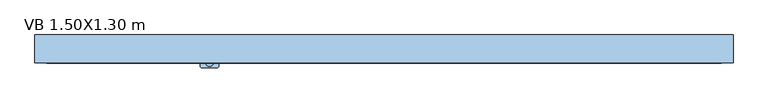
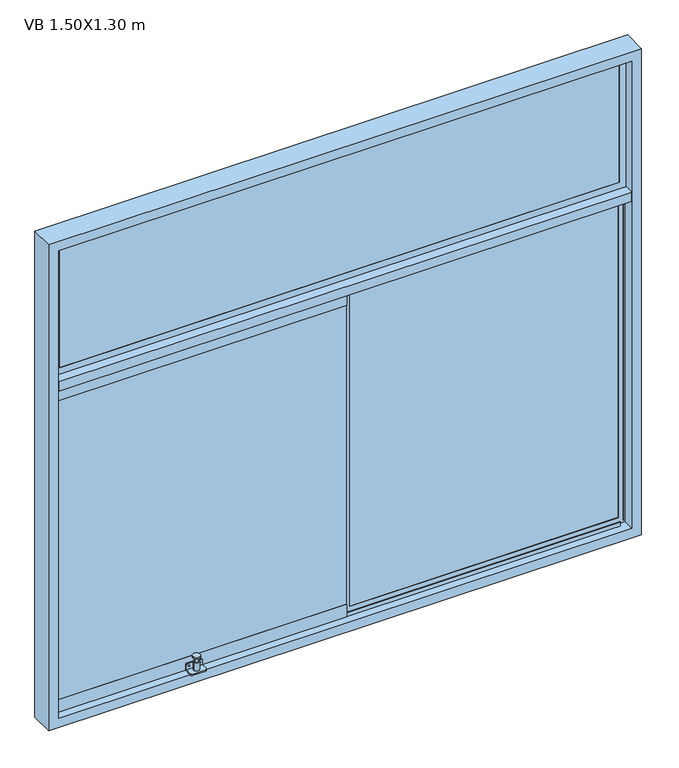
"""IFC4 building model written with IfcOpenShell, lengths in millimetres: window geometry, Ventana baja corrediza 2 cuerpos : VB 1.50X1.30 m."""

from ifc_helpers import new_model, si_unit, point, frame, frame_2d, origin, place, context, project, spatial, polyline, circle_curve, trimmed, segment, composite_curve, outline, extrude, faceted_brep, source, transform, mapped, element, save


def vb_1_50x1_30_m_f73e4b78(model_context):
    return source(origin(), model_context, "Body", "SolidModel", [
        extrude(outline(composite_curve([segment(trimmed(circle_curve(frame_2d((-375.0, -28.2738075)), 9.1519646), [point((-365.8480354, -28.2738075))], [point((-384.1519646, -28.2738075))], False, "CARTESIAN"), True, "CONTINUOUS"), segment(trimmed(circle_curve(frame_2d((-375.0, -28.2738075)), 9.1519646), [point((-384.1519646, -28.2738075))], [point((-365.8480354, -28.2738075))], False, "CARTESIAN"), True, "CONTINUOUS")], self_intersect=False)), frame((0.0, 0.0, 966.1518437), z_axis=(0.0, 0.0, 1.0), x_axis=(1.0, 0.0, 0.0)), (0.0, 0.0, 1.0), 3.4852564),
        extrude(outline(composite_curve([segment(trimmed(circle_curve(frame_2d((-375.0, -28.2738075)), 4.1308937), [point((-370.8691063, -28.2738075))], [point((-379.1308937, -28.2738075))], False, "CARTESIAN"), True, "CONTINUOUS"), segment(trimmed(circle_curve(frame_2d((-375.0, -28.2738075)), 4.1308937), [point((-379.1308937, -28.2738075))], [point((-370.8691063, -28.2738075))], False, "CARTESIAN"), True, "CONTINUOUS")], self_intersect=False)), frame((0.0, 0.0, 953.913316), z_axis=(0.0, 0.0, 1.0), x_axis=(1.0, 0.0, 0.0)), (0.0, 0.0, 1.0), 12.2385277),
        extrude(outline(composite_curve([segment(trimmed(circle_curve(frame_2d((-375.0, -28.2738075)), 7.026694), [point((-367.973306, -28.2738075))], [point((-382.026694, -28.2738075))], False, "CARTESIAN"), True, "CONTINUOUS"), segment(trimmed(circle_curve(frame_2d((-375.0, -28.2738075)), 7.026694), [point((-382.026694, -28.2738075))], [point((-367.973306, -28.2738075))], False, "CARTESIAN"), True, "CONTINUOUS")], self_intersect=False)), frame((0.0, 0.0, 932.1776083), z_axis=(0.0, 0.0, 1.0), x_axis=(1.0, 0.0, 0.0)), (0.0, 0.0, 1.0), 21.7357077),
        extrude(outline(composite_curve([segment(trimmed(circle_curve(frame_2d((945.1933283, -356.98428)), 1.98428), [point((945.1933283, -355.0))], [point((947.1776083, -356.98428))], False, "CARTESIAN"), True, "CONTINUOUS"), segment(polyline([(947.1776083, -356.98428), (947.1776083, -393.01572)]), True, "CONTINUOUS"), segment(trimmed(circle_curve(frame_2d((945.1933283, -393.01572)), 1.98428), [point((947.1776083, -393.01572))], [point((945.1933283, -395.0))], False, "CARTESIAN"), True, "CONTINUOUS"), segment(polyline([(945.1933283, -395.0), (932.1776083, -395.0), (932.1776083, -355.0), (945.1933283, -355.0)]), True, "CONTINUOUS")], self_intersect=False), holes=[composite_curve([segment(trimmed(circle_curve(frame_2d((940.5771467, -361.6646221)), 1.6750611), [point((940.5771467, -359.9895609))], [point((940.5771467, -363.3396832))], True, "CARTESIAN"), True, "CONTINUOUS"), segment(trimmed(circle_curve(frame_2d((940.5771467, -361.6646221)), 1.6750611), [point((940.5771467, -363.3396832))], [point((940.5771467, -359.9895609))], True, "CARTESIAN"), True, "CONTINUOUS")], self_intersect=False), composite_curve([segment(trimmed(circle_curve(frame_2d((940.5771467, -388.3353779)), 1.6750611), [point((940.5771467, -390.0104391))], [point((940.5771467, -386.6603168))], True, "CARTESIAN"), True, "CONTINUOUS"), segment(trimmed(circle_curve(frame_2d((940.5771467, -388.3353779)), 1.6750611), [point((940.5771467, -386.6603168))], [point((940.5771467, -390.0104391))], True, "CARTESIAN"), True, "CONTINUOUS")], self_intersect=False)]), frame((0.0, -19.1218429, 0.0), z_axis=(0.0, 1.0, 0.0), x_axis=(0.0, 0.0, 1.0)), (0.0, 0.0, 1.0), 4.012039),
        extrude(outline(composite_curve([segment(polyline([(-395.0, -15.1098039), (-355.0, -15.1098039), (-355.0, -36.2721359)]), True, "CONTINUOUS"), segment(trimmed(circle_curve(frame_2d((-358.8376681, -36.2721359)), 3.8376681), [point((-355.0, -36.2721359))], [point((-358.8376681, -40.1098039))], False, "CARTESIAN"), True, "CONTINUOUS"), segment(polyline([(-358.8376681, -40.1098039), (-391.1623319, -40.1098039)]), True, "CONTINUOUS"), segment(trimmed(circle_curve(frame_2d((-391.1623319, -36.2721359)), 3.8376681), [point((-391.1623319, -40.1098039))], [point((-395.0, -36.2721359))], False, "CARTESIAN"), True, "CONTINUOUS"), segment(polyline([(-395.0, -36.2721359), (-395.0, -15.1098039)]), True, "CONTINUOUS")], self_intersect=False)), frame((0.0, 0.0, 928.6104688), z_axis=(0.0, 0.0, 1.0), x_axis=(1.0, 0.0, 0.0)), (0.0, 0.0, 1.0), 3.5671395),
        extrude(outline(polyline([(-725.0, -13.9001865), (-725.0, -4.4001865), (12.5, -4.4001865), (12.5, -13.9001865), (-725.0, -13.9001865)])), frame((0.0, 0.0, 948.9759668), z_axis=(0.0, 0.0, 1.0), x_axis=(1.0, 0.0, 0.0)), (0.0, 0.0, 1.0), 827.0480665),
        extrude(outline(polyline([(721.40625, 1.2096174), (16.09375, 1.2096174), (16.09375, 10.7096174), (721.40625, 10.7096174), (721.40625, 1.2096174)])), frame((0.0, 0.0, 928.59375), z_axis=(0.0, 0.0, 1.0), x_axis=(1.0, 0.0, 0.0)), (0.0, 0.0, 1.0), 867.8125),
        extrude(outline(polyline([(721.40625, -4.75), (-721.40625, -4.75), (-721.40625, 4.75), (721.40625, 4.75), (721.40625, -4.75)])), frame((0.0, 0.0, 1828.59375), z_axis=(0.0, 0.0, 1.0), x_axis=(1.0, 0.0, 0.0)), (0.0, 0.0, 1.0), 342.8125),
        extrude(outline(composite_curve([segment(polyline([(-10.2821926, 1800.0), (0.0, 1800.0), (0.0, 1797.9830324), (-8.0182357, 1797.9830324), (-8.0182357, 1789.1628008)]), True, "CONTINUOUS"), segment(trimmed(circle_curve(frame_2d((-9.1502142, 1789.8593269)), 1.3291064), [point((-8.0182357, 1789.1628008))], [point((-10.2821926, 1789.1628008))], False, "CARTESIAN"), True, "CONTINUOUS"), segment(polyline([(-10.2821926, 1789.1628008), (-10.2821926, 1800.0)]), True, "CONTINUOUS")], self_intersect=False)), frame((-725.0, 0.0, 0.0), z_axis=(1.0, 0.0, 0.0), x_axis=(0.0, 1.0, 0.0)), (0.0, 0.0, 1.0), 1433.2282521),
        extrude(outline(polyline([(-12.0251865, 1779.6177832), (-6.2751865, 1779.6177832), (-6.2751865, 1796.3895312), (-3.190569, 1796.3895312), (-3.190569, 1762.8460353), (-4.4001865, 1762.8460353), (-4.4001865, 1776.0240332), (-13.9001865, 1776.0240332), (-13.9001865, 1762.8460353), (-15.1098039, 1762.8460353), (-15.1098039, 1796.3895312), (-12.0251865, 1796.3895312), (-12.0251865, 1779.6177832)])), frame((-725.0, 0.0, 0.0), z_axis=(1.0, 0.0, 0.0), x_axis=(0.0, 1.0, 0.0)), (0.0, 0.0, 1.0), 737.5),
        extrude(outline(polyline([(-6.9867702, 1780.2900719), (-9.1501865, 1782.4534882), (-11.3136028, 1780.2900719), (-11.3136028, 1789.8233667), (-9.1501865, 1787.6599504), (-6.9867702, 1789.8233667), (-6.9867702, 1780.2900719)])), frame((-725.0, 0.0, 0.0), z_axis=(1.0, 0.0, 0.0), x_axis=(0.0, 1.0, 0.0)), (0.0, 0.0, 1.0), 737.5),
        faceted_brep([(29.2717479, 1.2096174, 1783.2282521), (29.2717479, 0.0, 1783.2282521), (29.2717479, 0.0, 941.7717479), (29.2717479, 1.2096174, 941.7717479), (16.09375, 10.7096174, 1796.40625), (16.09375, 1.2096174, 1796.40625), (16.09375, 1.2096174, 928.59375), (16.09375, 10.7096174, 928.59375), (29.2717479, 11.9192349, 1783.2282521), (29.2717479, 10.7096174, 1783.2282521), (29.2717479, 10.7096174, 941.7717479), (29.2717479, 11.9192349, 941.7717479), (12.5, 0.0, 1800.0), (12.5, 11.9192349, 1800.0), (12.5, 11.9192349, 925.0), (12.5, 0.0, 925.0), (708.2282521, 0.0, 941.7717479), (708.2282521, 1.2096174, 941.7717479), (721.40625, 1.2096174, 928.59375), (721.40625, 10.7096174, 928.59375), (708.2282521, 10.7096174, 941.7717479), (708.2282521, 11.9192349, 941.7717479), (725.0, 11.9192349, 925.0), (725.0, 0.0, 925.0), (708.2282521, 0.0, 1783.2282521), (708.2282521, 1.2096174, 1783.2282521), (721.40625, 1.2096174, 1796.40625), (721.40625, 10.7096174, 1796.40625), (708.2282521, 10.7096174, 1783.2282521), (708.2282521, 11.9192349, 1783.2282521), (725.0, 11.9192349, 1800.0), (725.0, 0.0, 1800.0)], [[[0, 1, 2, 3]], [[4, 5, 6, 7]], [[8, 9, 10, 11]], [[12, 13, 14, 15]], [[3, 2, 16, 17]], [[7, 6, 18, 19]], [[11, 10, 20, 21]], [[15, 14, 22, 23]], [[17, 16, 24, 25]], [[19, 18, 26, 27]], [[21, 20, 28, 29]], [[23, 22, 30, 31]], [[15, 23, 31, 12], [1, 24, 16, 2]], [[25, 24, 1, 0]], [[5, 26, 18, 6], [3, 17, 25, 0]], [[27, 26, 5, 4]], [[7, 19, 27, 4], [9, 28, 20, 10]], [[29, 28, 9, 8]], [[13, 30, 22, 14], [11, 21, 29, 8]], [[31, 30, 13, 12]]]),
        faceted_brep([(-725.0, -5.9596174, 2175.0), (-725.0, 5.9596174, 2175.0), (-725.0, 5.9596174, 1825.0), (-725.0, -5.9596174, 1825.0), (-708.2282521, -4.75, 2158.2282521), (-708.2282521, -5.9596174, 2158.2282521), (-708.2282521, -5.9596174, 1841.7717479), (-708.2282521, -4.75, 1841.7717479), (-721.40625, 4.75, 2171.40625), (-721.40625, -4.75, 2171.40625), (-721.40625, -4.75, 1828.59375), (-721.40625, 4.75, 1828.59375), (-708.2282521, 5.9596174, 2158.2282521), (-708.2282521, 4.75, 2158.2282521), (-708.2282521, 4.75, 1841.7717479), (-708.2282521, 5.9596174, 1841.7717479), (725.0, 5.9596174, 1825.0), (725.0, -5.9596174, 1825.0), (708.2282521, -5.9596174, 1841.7717479), (708.2282521, -4.75, 1841.7717479), (721.40625, -4.75, 1828.59375), (721.40625, 4.75, 1828.59375), (708.2282521, 4.75, 1841.7717479), (708.2282521, 5.9596174, 1841.7717479), (725.0, 5.9596174, 2175.0), (725.0, -5.9596174, 2175.0), (708.2282521, -5.9596174, 2158.2282521), (708.2282521, -4.75, 2158.2282521), (721.40625, -4.75, 2171.40625), (721.40625, 4.75, 2171.40625), (708.2282521, 4.75, 2158.2282521), (708.2282521, 5.9596174, 2158.2282521)], [[[0, 1, 2, 3]], [[4, 5, 6, 7]], [[8, 9, 10, 11]], [[12, 13, 14, 15]], [[3, 2, 16, 17]], [[7, 6, 18, 19]], [[11, 10, 20, 21]], [[15, 14, 22, 23]], [[17, 16, 24, 25]], [[19, 18, 26, 27]], [[21, 20, 28, 29]], [[23, 22, 30, 31]], [[25, 24, 1, 0]], [[3, 17, 25, 0], [5, 26, 18, 6]], [[27, 26, 5, 4]], [[9, 28, 20, 10], [7, 19, 27, 4]], [[29, 28, 9, 8]], [[11, 21, 29, 8], [13, 30, 22, 14]], [[31, 30, 13, 12]], [[1, 24, 16, 2], [15, 23, 31, 12]]]),
        extrude(outline(polyline([(12.5, 0.0), (-12.5, 0.0), (-12.5, 30.15), (12.5, 30.15), (12.5, 0.0)])), frame((0.0, 0.0, 925.0), z_axis=(0.0, 0.0, 1.0), x_axis=(1.0, 0.0, 0.0)), (0.0, 0.0, 1.0), 875.0),
        extrude(outline(polyline([(725.0, 30.15), (725.0, -30.15), (-725.0, -30.15), (-725.0, 30.15), (725.0, 30.15)])), frame((0.0, 0.0, 1800.0), z_axis=(0.0, 0.0, 1.0), x_axis=(1.0, 0.0, 0.0)), (0.0, 0.0, 1.0), 25.0),
        extrude(outline(polyline([(900.0, -750.0), (900.0, 750.0), (2200.0, 750.0), (2200.0, -750.0), (900.0, -750.0)]), holes=[polyline([(2175.0, -725.0), (2175.0, 725.0), (925.0, 725.0), (925.0, -725.0), (2175.0, -725.0)])]), frame((0.0, -30.15, 0.0), z_axis=(0.0, 1.0, 0.0), x_axis=(0.0, 0.0, 1.0)), (0.0, 0.0, 1.0), 60.3),
        extrude(outline(polyline([(-3.190569, 962.1539647), (-3.190569, 928.6104688), (-6.2751865, 928.6104688), (-6.2751865, 945.3822168), (-12.0251865, 945.3822168), (-12.0251865, 928.6104688), (-15.1098039, 928.6104688), (-15.1098039, 962.1539647), (-13.9001865, 962.1539647), (-13.9001865, 948.9759668), (-4.4001865, 948.9759668), (-4.4001865, 962.1539647), (-3.190569, 962.1539647)])), frame((-725.0, 0.0, 0.0), z_axis=(1.0, 0.0, 0.0), x_axis=(0.0, 1.0, 0.0)), (0.0, 0.0, 1.0), 737.5),
        extrude(outline(polyline([(-9.1501865, 942.5465118), (-6.9867702, 944.7099281), (-6.9867702, 935.1766333), (-9.1501865, 937.3400496), (-11.3136028, 935.1766333), (-11.3136028, 944.7099281), (-9.1501865, 942.5465118)])), frame((-725.0, 0.0, 0.0), z_axis=(1.0, 0.0, 0.0), x_axis=(0.0, 1.0, 0.0)), (0.0, 0.0, 1.0), 737.5),
        extrude(outline(composite_curve([segment(polyline([(-10.2821926, 925.0), (-10.2821926, 935.8371992)]), True, "CONTINUOUS"), segment(trimmed(circle_curve(frame_2d((-9.1502142, 935.1406731)), 1.3291064), [point((-10.2821926, 935.8371992))], [point((-8.0182357, 935.8371992))], False, "CARTESIAN"), True, "CONTINUOUS"), segment(polyline([(-8.0182357, 935.8371992), (-8.0182357, 927.0169676), (0.0, 927.0169676), (0.0, 925.0), (-10.2821926, 925.0)]), True, "CONTINUOUS")], self_intersect=False)), frame((-725.0, 0.0, 0.0), z_axis=(1.0, 0.0, 0.0), x_axis=(0.0, 1.0, 0.0)), (0.0, 0.0, 1.0), 1433.2282521),
    ])


if __name__ == "__main__":
    model = new_model("IFC4")
    model_context = context("Model", 3, world=origin())
    ifc_project = project(units=[si_unit("LENGTHUNIT", "METRE", prefix="MILLI")], contexts=[model_context])
    site = spatial("IfcSite", under=ifc_project)
    building = spatial("IfcBuilding", under=site)
    placement = place(None, origin())
    vb_1_50x1_30_m_shape = vb_1_50x1_30_m_f73e4b78(model_context)
    element("IfcWindow", 1, ObjectType="Ventana baja corrediza 2 cuerpos : VB 1.50X1.30 m", at=placement, inside=building, context=model_context, shape_type="MappedRepresentation", body=[
        mapped(vb_1_50x1_30_m_shape, transform((0.0, 0.0, 0.0), x_axis=(1.0, 0.0, 0.0), y_axis=(0.0, 1.0, 0.0), z_axis=(0.0, 0.0, 1.0))),
    ])
    save(model, "model.ifc")
